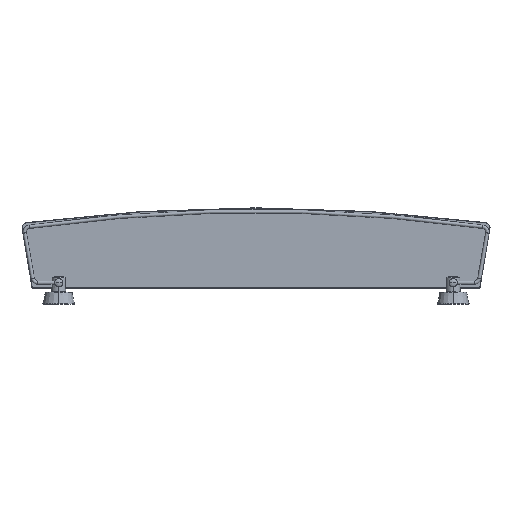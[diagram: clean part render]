
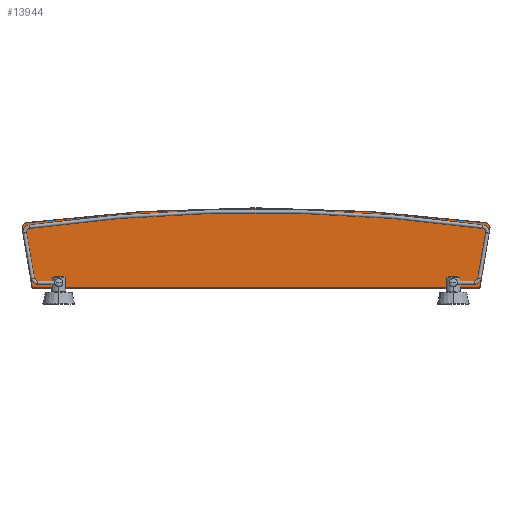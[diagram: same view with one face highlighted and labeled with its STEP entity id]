
A CAD part, top view. The second image highlights one B-rep face of the part: STEP entity #13944.
In plain terms, the highlighted planar face has unit normal (0, 0, 1).
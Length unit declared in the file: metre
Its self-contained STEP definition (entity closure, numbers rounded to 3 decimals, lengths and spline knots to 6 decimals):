
#13944=ADVANCED_FACE('',(#13950),#13945,.F.);
#13945=PLANE('',#13946);
#13946=AXIS2_PLACEMENT_3D('',#13947,#13948,#13949);
#13947=CARTESIAN_POINT('',(-0.295,0.0061,0.004));
#13948=DIRECTION('',(0.0,0.0,-1.0));
#13949=DIRECTION('',(0.0,-1.0,0.0));
#13950=FACE_OUTER_BOUND('',#13951,.T.);
#13951=EDGE_LOOP('',(#13952,#13962,#13970,#13978,#13987,#13996));
#13952=ORIENTED_EDGE('',*,*,#13953,.T.);
#13953=EDGE_CURVE('',#13954,#13956,#13958,.T.);
#13954=VERTEX_POINT('',#13955);
#13955=CARTESIAN_POINT('',(-0.644396,0.094858,0.004));
#13956=VERTEX_POINT('',#13957);
#13957=CARTESIAN_POINT('',(-0.629577,0.0066,0.004));
#13958=LINE('',#13959,#13960);
#13959=CARTESIAN_POINT('',(-0.620321,-0.048525,0.004)
  );
#13960=VECTOR('',#13961,1.);
#13961=DIRECTION('',(0.166,-0.986,0.0));
#13962=ORIENTED_EDGE('',*,*,#13963,.T.);
#13963=EDGE_CURVE('',#13956,#13964,#13966,.T.);
#13964=VERTEX_POINT('',#13965);
#13965=CARTESIAN_POINT('',(0.039577,0.0066,0.004));
#13966=LINE('',#13967,#13968);
#13967=CARTESIAN_POINT('',(-0.295,0.0066,0.004));
#13968=VECTOR('',#13969,1.0);
#13969=DIRECTION('',(1.0,0.0,0.0));
#13970=ORIENTED_EDGE('',*,*,#13971,.T.);
#13971=EDGE_CURVE('',#13964,#13972,#13974,.T.);
#13972=VERTEX_POINT('',#13973);
#13973=CARTESIAN_POINT('',(0.054396,0.094858,0.004));
#13974=LINE('',#13975,#13976);
#13975=CARTESIAN_POINT('',(0.030321,-0.048525,0.004));
#13976=VECTOR('',#13977,1.);
#13977=DIRECTION('',(0.166,0.986,0.0));
#13978=ORIENTED_EDGE('',*,*,#13979,.T.);
#13979=EDGE_CURVE('',#13972,#13980,#13982,.F.);
#13980=VERTEX_POINT('',#13981);
#13981=CARTESIAN_POINT('',(0.047961,0.103538,0.004));
#13982=CIRCLE('',#13983,0.0075);
#13983=AXIS2_PLACEMENT_3D('',#13984,#13985,#13986);
#13984=CARTESIAN_POINT('',(0.047,0.0961,0.004));
#13985=DIRECTION('',(0.0,0.0,-1.0));
#13986=DIRECTION('',(-1.0,0.0,0.0));
#13987=ORIENTED_EDGE('',*,*,#13988,.T.);
#13988=EDGE_CURVE('',#13980,#13989,#13991,.F.);
#13989=VERTEX_POINT('',#13990);
#13990=CARTESIAN_POINT('',(-0.637961,0.103538,0.004));
#13991=CIRCLE('',#13992,2.676773);
#13992=AXIS2_PLACEMENT_3D('',#13993,#13994,#13995);
#13993=CARTESIAN_POINT('',(-0.295,-2.551173,0.004));
#13994=DIRECTION('',(0.0,0.0,-1.0));
#13995=DIRECTION('',(-1.0,0.0,0.0));
#13996=ORIENTED_EDGE('',*,*,#13998,.T.);
#13997=CARTESIAN_POINT('',(-0.644396,0.094858,0.004));
#13998=EDGE_CURVE('',#13989,#13954,#13999,.F.);
#13999=(B_SPLINE_CURVE(3,(#13997,#14000,#14001,#14002),.UNSPECIFIED.,.F.,
  .U.)B_SPLINE_CURVE_WITH_KNOTS((4,4),(0.0,1.0),.UNSPECIFIED.)BOUNDED_CURVE(
  )CURVE()GEOMETRIC_REPRESENTATION_ITEM()RATIONAL_B_SPLINE_CURVE((1.0,
  0.796,0.796,1.0))REPRESENTATION_ITEM(''));
#14000=CARTESIAN_POINT('',(-0.645146,0.099322,0.004));
#14001=CARTESIAN_POINT('',(-0.64245,0.102958,0.004));
#14002=CARTESIAN_POINT('',(-0.637961,0.103538,0.004));
